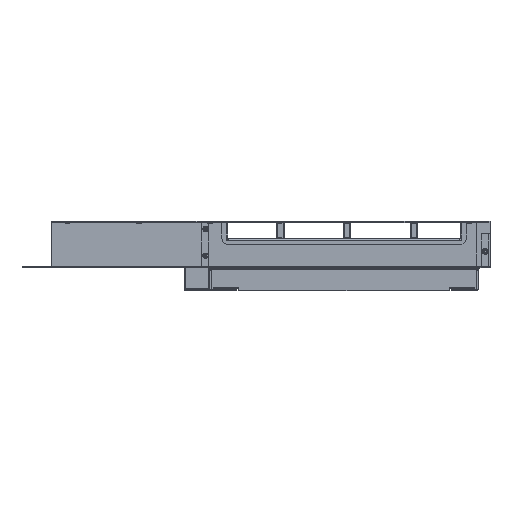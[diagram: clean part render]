
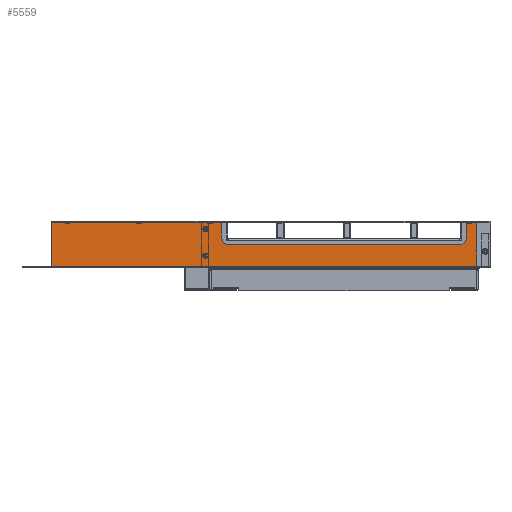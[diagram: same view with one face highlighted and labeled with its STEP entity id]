
A CAD part, top view. The second image highlights one B-rep face of the part: STEP entity #5559.
In plain terms, the highlighted planar face has unit normal (0, 0, 1).
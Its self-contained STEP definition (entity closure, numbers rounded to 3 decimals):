
#1304=DIRECTION('',(1.,0.,0.));
#1305=VECTOR('',#1304,397.);
#1306=CARTESIAN_POINT('',(-273.2,1.2,396.5));
#1307=LINE('',#1306,#1305);
#1317=CARTESIAN_POINT('',(-129.5,36.,396.5));
#1318=DIRECTION('',(0.,0.,-1.));
#1319=DIRECTION('',(1.,0.,0.));
#1320=AXIS2_PLACEMENT_3D('',#1317,#1318,#1319);
#1322=CARTESIAN_POINT('',(-129.5,36.,396.5));
#1323=DIRECTION('',(0.,0.,-1.));
#1324=DIRECTION('',(-1.,0.,0.));
#1325=AXIS2_PLACEMENT_3D('',#1322,#1323,#1324);
#1327=CARTESIAN_POINT('',(-129.5,11.,396.5));
#1328=DIRECTION('',(0.,0.,-1.));
#1329=DIRECTION('',(1.,0.,0.));
#1330=AXIS2_PLACEMENT_3D('',#1327,#1328,#1329);
#1332=CARTESIAN_POINT('',(-129.5,11.,396.5));
#1333=DIRECTION('',(0.,0.,-1.));
#1334=DIRECTION('',(-1.,0.,0.));
#1335=AXIS2_PLACEMENT_3D('',#1332,#1333,#1334);
#1337=DIRECTION('',(0.,-1.,0.));
#1338=VECTOR('',#1337,0.4);
#1339=CARTESIAN_POINT('',(-273.2,42.2,396.5));
#1340=LINE('',#1339,#1338);
#1341=DIRECTION('',(0.,-1.,0.));
#1342=VECTOR('',#1341,16.8);
#1343=CARTESIAN_POINT('',(-110.,42.2,396.5));
#1344=LINE('',#1343,#1342);
#1345=DIRECTION('',(-1.,0.,0.));
#1346=VECTOR('',#1345,220.);
#1347=CARTESIAN_POINT('',(110.,25.4,396.5));
#1348=LINE('',#1347,#1346);
#1349=DIRECTION('',(0.,-1.,0.));
#1350=VECTOR('',#1349,16.8);
#1351=CARTESIAN_POINT('',(110.,42.2,396.5));
#1352=LINE('',#1351,#1350);
#1353=DIRECTION('',(0.,1.,0.));
#1354=VECTOR('',#1353,41.);
#1355=CARTESIAN_POINT('',(123.8,1.2,396.5));
#1356=LINE('',#1355,#1354);
#1357=DIRECTION('',(0.,1.,0.));
#1358=VECTOR('',#1357,40.6);
#1359=CARTESIAN_POINT('',(-273.2,1.2,396.5));
#1360=LINE('',#1359,#1358);
#2573=DIRECTION('',(-1.,0.,0.));
#2574=VECTOR('',#2573,13.8);
#2575=CARTESIAN_POINT('',(123.8,42.2,396.5));
#2576=LINE('',#2575,#2574);
#2714=DIRECTION('',(-1.,0.,0.));
#2715=VECTOR('',#2714,163.2);
#2716=CARTESIAN_POINT('',(-110.,42.2,396.5));
#2717=LINE('',#2716,#2715);
#2955=CARTESIAN_POINT('',(110.,25.4,396.5));
#2956=CARTESIAN_POINT('',(-110.,25.4,396.5));
#2957=VERTEX_POINT('',#2955);
#2958=VERTEX_POINT('',#2956);
#2979=CARTESIAN_POINT('',(110.,42.2,396.5));
#2980=VERTEX_POINT('',#2979);
#2981=CARTESIAN_POINT('',(123.8,42.2,396.5));
#2982=VERTEX_POINT('',#2981);
#2995=CARTESIAN_POINT('',(-273.2,42.2,396.5));
#2996=VERTEX_POINT('',#2995);
#2997=CARTESIAN_POINT('',(-110.,42.2,396.5));
#2998=VERTEX_POINT('',#2997);
#3359=CARTESIAN_POINT('',(-128.,36.,396.5));
#3360=CARTESIAN_POINT('',(-131.,36.,396.5));
#3361=VERTEX_POINT('',#3359);
#3362=VERTEX_POINT('',#3360);
#3363=CARTESIAN_POINT('',(-128.,11.,396.5));
#3364=CARTESIAN_POINT('',(-131.,11.,396.5));
#3365=VERTEX_POINT('',#3363);
#3366=VERTEX_POINT('',#3364);
#3451=CARTESIAN_POINT('',(123.8,1.2,396.5));
#3452=VERTEX_POINT('',#3451);
#3471=CARTESIAN_POINT('',(-273.2,1.2,396.5));
#3472=CARTESIAN_POINT('',(-273.2,41.8,396.5));
#3473=VERTEX_POINT('',#3471);
#3474=VERTEX_POINT('',#3472);
#5523=CARTESIAN_POINT('',(123.8,0.,396.5));
#5524=DIRECTION('',(0.,0.,1.));
#5525=DIRECTION('',(1.,0.,0.));
#5526=AXIS2_PLACEMENT_3D('',#5523,#5524,#5525);
#5527=PLANE('',#5526);
#5529=ORIENTED_EDGE('',*,*,#5528,.F.);
#5531=ORIENTED_EDGE('',*,*,#5530,.F.);
#5533=ORIENTED_EDGE('',*,*,#5532,.T.);
#5535=ORIENTED_EDGE('',*,*,#5534,.F.);
#5537=ORIENTED_EDGE('',*,*,#5536,.F.);
#5539=ORIENTED_EDGE('',*,*,#5538,.F.);
#5541=ORIENTED_EDGE('',*,*,#5540,.F.);
#5542=ORIENTED_EDGE('',*,*,#5515,.F.);
#5544=ORIENTED_EDGE('',*,*,#5543,.T.);
#5545=EDGE_LOOP('',(#5529,#5531,#5533,#5535,#5537,#5539,#5541,#5542,#5544));
#5546=FACE_OUTER_BOUND('',#5545,.F.);
#5548=ORIENTED_EDGE('',*,*,#5547,.F.);
#5550=ORIENTED_EDGE('',*,*,#5549,.F.);
#5551=EDGE_LOOP('',(#5548,#5550));
#5552=FACE_BOUND('',#5551,.F.);
#5554=ORIENTED_EDGE('',*,*,#5553,.F.);
#5556=ORIENTED_EDGE('',*,*,#5555,.F.);
#5557=EDGE_LOOP('',(#5554,#5556));
#5558=FACE_BOUND('',#5557,.F.);
#1321=CIRCLE('',#1320,1.5);
#1326=CIRCLE('',#1325,1.5);
#1331=CIRCLE('',#1330,1.5);
#1336=CIRCLE('',#1335,1.5);
#5515=EDGE_CURVE('',#3473,#3452,#1307,.T.);
#5528=EDGE_CURVE('',#2996,#3474,#1340,.T.);
#5530=EDGE_CURVE('',#2998,#2996,#2717,.T.);
#5532=EDGE_CURVE('',#2998,#2958,#1344,.T.);
#5534=EDGE_CURVE('',#2957,#2958,#1348,.T.);
#5536=EDGE_CURVE('',#2980,#2957,#1352,.T.);
#5538=EDGE_CURVE('',#2982,#2980,#2576,.T.);
#5540=EDGE_CURVE('',#3452,#2982,#1356,.T.);
#5543=EDGE_CURVE('',#3473,#3474,#1360,.T.);
#5547=EDGE_CURVE('',#3365,#3366,#1331,.T.);
#5549=EDGE_CURVE('',#3366,#3365,#1336,.T.);
#5553=EDGE_CURVE('',#3361,#3362,#1321,.T.);
#5555=EDGE_CURVE('',#3362,#3361,#1326,.T.);
#5559=ADVANCED_FACE('',(#5546,#5552,#5558),#5527,.T.);
